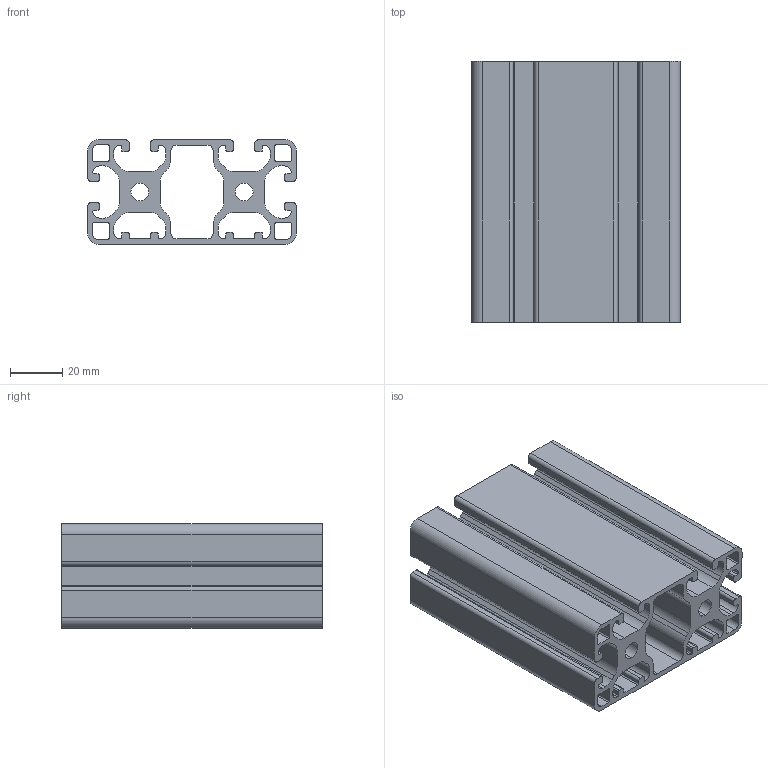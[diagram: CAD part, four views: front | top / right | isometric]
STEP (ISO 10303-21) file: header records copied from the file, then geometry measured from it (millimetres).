
FILE_DESCRIPTION (( 'STEP AP203' ), '1' );
FILE_NAME ('0108P8040-2NL.STEP', '2024-02-29T09:59:49', ( 'Windows-Benutzer' ), ( '' ), 'SwSTEP 2.0', 'SolidWorks 2023', '' );
FILE_SCHEMA (( 'CONFIG_CONTROL_DESIGN' ));
Length unit declared in the file: millimetre
Products named in the file (1): 0108P8040-2NL
Bounding box: 80 x 100 x 40 mm (x, y, z)
Volume: 116674.5 mm3; surface area: 81193.5 mm2
Topology: 1 solids, 1 shells, 226 faces, 672 edges, 448 vertices
Faces by surface type: cylinder 120, plane 106
Entity records: 7769 total; most frequent: DIRECTION 1366, CARTESIAN_POINT 1347, ORIENTED_EDGE 1344, EDGE_CURVE 672, AXIS2_PLACEMENT_3D 467, VERTEX_POINT 448, LINE 432, VECTOR 432
